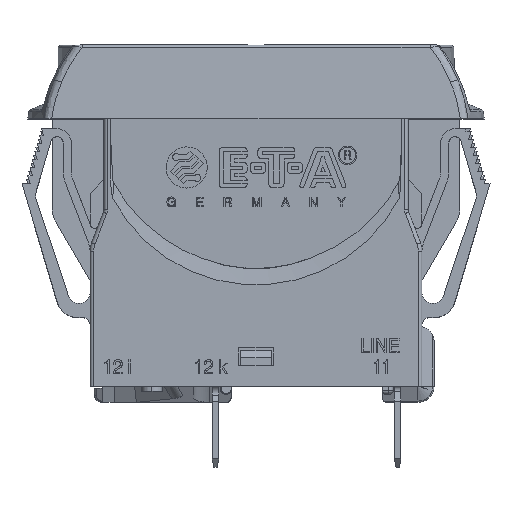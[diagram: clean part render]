
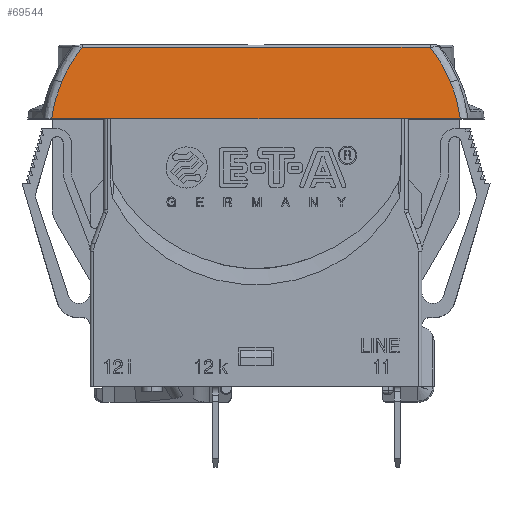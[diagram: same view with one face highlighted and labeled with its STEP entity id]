
A CAD part, top view. The second image highlights one B-rep face of the part: STEP entity #69544.
In plain terms, the highlighted planar face has unit normal (0, 0.079, 0.997).
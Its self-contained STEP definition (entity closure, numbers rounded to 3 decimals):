
#17196=CARTESIAN_POINT('',(-25.237,33.,
13.216));
#17212=DIRECTION('',(1.,0.,0.));
#17213=VECTOR('',#17212,50.473);
#17214=CARTESIAN_POINT('',(-25.237,33.,
13.216));
#17215=LINE('',#17214,#17213);
#17230=CARTESIAN_POINT('',(25.236,33.,13.216));
#24887=CARTESIAN_POINT('',(21.499,41.824,12.522));
#24894=DIRECTION('',(-1.,0.,0.));
#24895=VECTOR('',#24894,42.972);
#24896=CARTESIAN_POINT('',(21.499,41.824,12.522));
#24897=LINE('',#24896,#24895);
#24898=CARTESIAN_POINT('',(24.032,37.509,12.861));
#24899=CARTESIAN_POINT('',(23.926,37.766,12.841));
#24900=CARTESIAN_POINT('',(23.702,38.274,12.801));
#24901=CARTESIAN_POINT('',(23.331,39.021,12.742));
#24902=CARTESIAN_POINT('',(22.925,39.751,12.685));
#24903=CARTESIAN_POINT('',(22.485,40.463,12.629));
#24904=CARTESIAN_POINT('',(22.011,41.156,12.574));
#24905=CARTESIAN_POINT('',(21.674,41.603,12.539));
#24906=CARTESIAN_POINT('',(21.499,41.824,12.522));
#24908=CARTESIAN_POINT('',(25.236,33.,13.216));
#24909=CARTESIAN_POINT('',(25.195,33.309,13.192));
#24910=CARTESIAN_POINT('',(25.098,33.925,13.143));
#24911=CARTESIAN_POINT('',(24.905,34.84,13.071));
#24912=CARTESIAN_POINT('',(24.663,35.744,13.));
#24913=CARTESIAN_POINT('',(24.375,36.636,12.93));
#24914=CARTESIAN_POINT('',(24.151,37.22,12.884));
#24915=CARTESIAN_POINT('',(24.032,37.509,12.861));
#24917=CARTESIAN_POINT('',(-24.021,37.51,
12.861));
#24918=CARTESIAN_POINT('',(-24.141,37.221,
12.884));
#24919=CARTESIAN_POINT('',(-24.366,36.637,
12.93));
#24920=CARTESIAN_POINT('',(-24.657,35.747,
13.));
#24921=CARTESIAN_POINT('',(-24.901,34.843,
13.071));
#24922=CARTESIAN_POINT('',(-25.097,33.926,
13.143));
#24923=CARTESIAN_POINT('',(-25.196,33.31,
13.192));
#24924=CARTESIAN_POINT('',(-25.237,33.,
13.216));
#24926=CARTESIAN_POINT('',(-21.473,41.824,
12.522));
#24927=CARTESIAN_POINT('',(-21.648,41.604,
12.539));
#24928=CARTESIAN_POINT('',(-21.987,41.157,
12.574));
#24929=CARTESIAN_POINT('',(-22.463,40.466,
12.629));
#24930=CARTESIAN_POINT('',(-22.905,39.755,
12.685));
#24931=CARTESIAN_POINT('',(-23.314,39.025,
12.742));
#24932=CARTESIAN_POINT('',(-23.688,38.277,
12.801));
#24933=CARTESIAN_POINT('',(-23.914,37.767,
12.841));
#24934=CARTESIAN_POINT('',(-24.021,37.51,
12.861));
#33923=VERTEX_POINT('',#17196);
#33925=VERTEX_POINT('',#24917);
#33993=VERTEX_POINT('',#17230);
#33994=VERTEX_POINT('',#24915);
#34043=VERTEX_POINT('',#24887);
#34045=CARTESIAN_POINT('',(-21.473,41.824,
12.522));
#34046=VERTEX_POINT('',#34045);
#69528=CARTESIAN_POINT('',(-27.317,42.1,12.5));
#69529=DIRECTION('',(0.,0.078,0.997));
#69530=DIRECTION('',(1.,0.,0.));
#69531=AXIS2_PLACEMENT_3D('',#69528,#69529,#69530);
#69532=PLANE('',#69531);
#69534=ORIENTED_EDGE('',*,*,#69533,.F.);
#69535=ORIENTED_EDGE('',*,*,#69478,.F.);
#69536=ORIENTED_EDGE('',*,*,#69521,.F.);
#69537=ORIENTED_EDGE('',*,*,#60078,.F.);
#69539=ORIENTED_EDGE('',*,*,#69538,.F.);
#69541=ORIENTED_EDGE('',*,*,#69540,.F.);
#69542=EDGE_LOOP('',(#69534,#69535,#69536,#69537,#69539,#69541));
#69543=FACE_OUTER_BOUND('',#69542,.F.);
#24907=B_SPLINE_CURVE_WITH_KNOTS('',3,(#24898,#24899,#24900,#24901,#24902,
#24903,#24904,#24905,#24906),.UNSPECIFIED.,.F.,.F.,(4,1,1,1,1,1,4),(0.,
0.167,0.333,0.5,0.667,0.833,
1.),.UNSPECIFIED.);
#24916=B_SPLINE_CURVE_WITH_KNOTS('',3,(#24908,#24909,#24910,#24911,#24912,
#24913,#24914,#24915),.UNSPECIFIED.,.F.,.F.,(4,1,1,1,1,4),(0.,0.2,0.4,
0.6,0.8,1.),.UNSPECIFIED.);
#24925=B_SPLINE_CURVE_WITH_KNOTS('',3,(#24917,#24918,#24919,#24920,#24921,
#24922,#24923,#24924),.UNSPECIFIED.,.F.,.F.,(4,1,1,1,1,4),(0.,0.2,0.4,
0.6,0.8,1.),.UNSPECIFIED.);
#24935=B_SPLINE_CURVE_WITH_KNOTS('',3,(#24926,#24927,#24928,#24929,#24930,
#24931,#24932,#24933,#24934),.UNSPECIFIED.,.F.,.F.,(4,1,1,1,1,1,4),(0.,
0.167,0.333,0.5,0.667,0.833,
1.),.UNSPECIFIED.);
#60078=EDGE_CURVE('',#33923,#33993,#17215,.T.);
#69478=EDGE_CURVE('',#33994,#34043,#24907,.T.);
#69521=EDGE_CURVE('',#33993,#33994,#24916,.T.);
#69533=EDGE_CURVE('',#34043,#34046,#24897,.T.);
#69538=EDGE_CURVE('',#33925,#33923,#24925,.T.);
#69540=EDGE_CURVE('',#34046,#33925,#24935,.T.);
#69544=ADVANCED_FACE('',(#69543),#69532,.T.);
